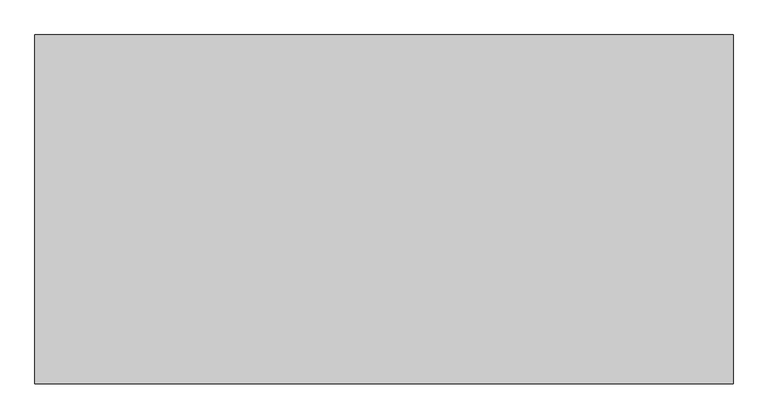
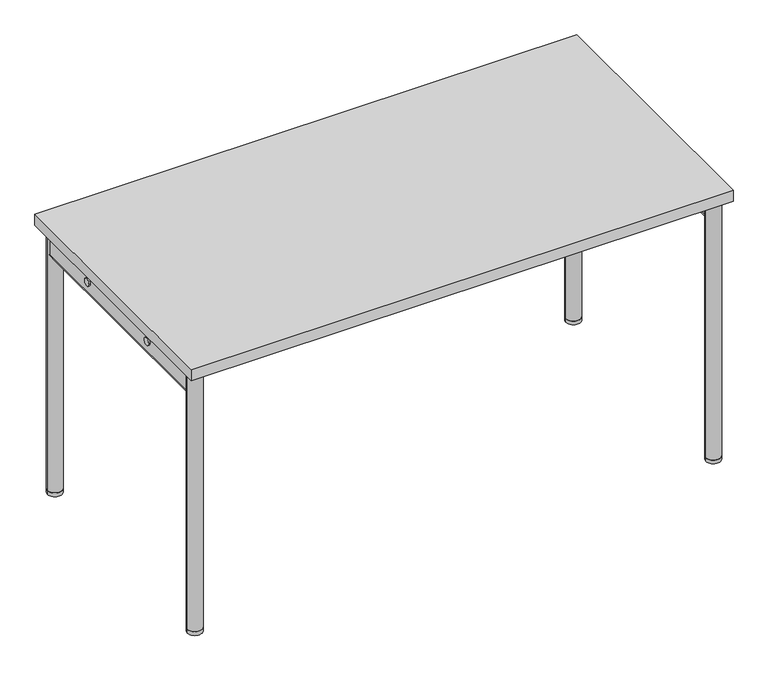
"""IFC4 building model written with IfcOpenShell, lengths in millimetres: furniture geometry, Audo Copenhagen - Co Collection - Table - 1400x700 : Crème tabletop with chrome legs."""

from ifc_helpers import new_model, si_unit, point, frame, frame_2d, origin, origin_with_axes, place, context, project, spatial, polyline, circle_curve, trimmed, segment, composite_curve, outline, extrude, source, transform, mapped, element, save


def furniture_1f168606(model_context):
    return source(origin(), model_context, "Body", "SweptSolid", [
        extrude(outline(composite_curve([segment(trimmed(circle_curve(frame_2d((-133.4891786, 688.598848)), 10.0), [point((-143.4891786, 688.598848))], [point((-123.4891786, 688.598848))], False, "CARTESIAN"), True, "CONTINUOUS"), segment(trimmed(circle_curve(frame_2d((-133.4891786, 688.598848)), 10.0), [point((-123.4891786, 688.598848))], [point((-143.4891786, 688.598848))], False, "CARTESIAN"), True, "CONTINUOUS")], self_intersect=False)), frame((686.1970363, 0.0, 0.0), z_axis=(1.0, 0.0, 0.0), x_axis=(0.0, 1.0, 0.0)), (0.0, 0.0, 1.0), 4.7228),
        extrude(outline(composite_curve([segment(trimmed(circle_curve(frame_2d((133.4891786, 688.598848)), 10.0), [point((143.4891786, 688.598848))], [point((123.4891786, 688.598848))], False, "CARTESIAN"), True, "CONTINUOUS"), segment(trimmed(circle_curve(frame_2d((133.4891786, 688.598848)), 10.0), [point((123.4891786, 688.598848))], [point((143.4891786, 688.598848))], False, "CARTESIAN"), True, "CONTINUOUS")], self_intersect=False)), frame((686.1970363, 0.0, 0.0), z_axis=(1.0, 0.0, 0.0), x_axis=(0.0, 1.0, 0.0)), (0.0, 0.0, 1.0), 4.7228),
        extrude(outline(composite_curve([segment(trimmed(circle_curve(frame_2d((-133.4891786, 688.598848)), 10.0), [point((-143.4891786, 688.598848))], [point((-123.4891786, 688.598848))], False, "CARTESIAN"), True, "CONTINUOUS"), segment(trimmed(circle_curve(frame_2d((-133.4891786, 688.598848)), 10.0), [point((-123.4891786, 688.598848))], [point((-143.4891786, 688.598848))], False, "CARTESIAN"), True, "CONTINUOUS")], self_intersect=False)), frame((-690.9198363, 0.0, 0.0), z_axis=(1.0, 0.0, 0.0), x_axis=(0.0, 1.0, 0.0)), (0.0, 0.0, 1.0), 4.7228),
        extrude(outline(composite_curve([segment(trimmed(circle_curve(frame_2d((133.4891786, 688.598848)), 10.0), [point((143.4891786, 688.598848))], [point((123.4891786, 688.598848))], False, "CARTESIAN"), True, "CONTINUOUS"), segment(trimmed(circle_curve(frame_2d((133.4891786, 688.598848)), 10.0), [point((123.4891786, 688.598848))], [point((143.4891786, 688.598848))], False, "CARTESIAN"), True, "CONTINUOUS")], self_intersect=False)), frame((-690.9198363, 0.0, 0.0), z_axis=(1.0, 0.0, 0.0), x_axis=(0.0, 1.0, 0.0)), (0.0, 0.0, 1.0), 4.7228),
        extrude(outline(polyline([(700.0, 350.0), (700.0, -350.0), (-700.0, -350.0), (-700.0, 350.0), (700.0, 350.0)])), frame((0.0, 0.0, 716.0), z_axis=(0.0, 0.0, 1.0), x_axis=(1.0, 0.0, 0.0)), (0.0, 0.0, 1.0), 30.0),
        extrude(outline(polyline([(655.0, -285.5), (655.0, -54.5), (660.0, -54.5), (660.0, -285.5), (655.0, -285.5)])), frame((0.0, 0.0, 666.0), z_axis=(0.0, 0.0, 1.0), x_axis=(1.0, 0.0, 0.0)), (0.0, 0.0, 1.0), 50.0),
        extrude(outline(polyline([(655.0, 54.5), (655.0, 285.5), (660.0, 285.5), (660.0, 54.5), (655.0, 54.5)])), frame((0.0, 0.0, 666.0), z_axis=(0.0, 0.0, 1.0), x_axis=(1.0, 0.0, 0.0)), (0.0, 0.0, 1.0), 50.0),
        extrude(outline(composite_curve([segment(trimmed(circle_curve(frame_2d((659.4923663, 673.5)), 13.5), [point((659.4923663, 660.0))], [point((659.4923663, 687.0))], False, "CARTESIAN"), True, "CONTINUOUS"), segment(polyline([(659.4923663, 687.0), (716.0, 687.0), (716.0, 660.0), (659.4923663, 660.0)]), True, "CONTINUOUS")], self_intersect=False)), frame((0.0, -313.4156347, 0.0), z_axis=(0.0, 1.0, 0.0), x_axis=(0.0, 0.0, 1.0)), (0.0, 0.0, 1.0), 622.2016593),
        extrude(outline(composite_curve([segment(trimmed(circle_curve(frame_2d((35.4917472, -12.5)), 12.5), [point((35.4917472, 0.0))], [point((35.4917472, -25.0))], False, "CARTESIAN"), True, "CONTINUOUS"), segment(polyline([(35.4917472, -25.0), (-2.0, -25.0), (-2.0, 0.0), (35.4917472, 0.0)]), True, "CONTINUOUS")], self_intersect=False)), frame((657.8449533, -237.5226228, 714.0), z_axis=(-0.7071067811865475, 0.7071067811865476, 0.0), x_axis=(0.0, 0.0, -1.0)), (0.0, 0.0, 1.0), 174.4944777),
        extrude(outline(composite_curve([segment(trimmed(circle_curve(frame_2d((0.0, -12.5)), 12.5), [point((0.0, -25.0))], [point((0.0, 0.0))], False, "CARTESIAN"), True, "CONTINUOUS"), segment(polyline([(0.0, 0.0), (37.4917472, 0.0), (37.4917472, -25.0), (0.0, -25.0)]), True, "CONTINUOUS")], self_intersect=False)), frame((552.1363943, 96.4587248, 678.5082528), z_axis=(0.7071067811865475, 0.7071067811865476, 0.0), x_axis=(0.0, 0.0, 1.0)), (0.0, 0.0, 1.0), 174.4944777),
        extrude(outline(composite_curve([segment(polyline([(0.0, -25.0), (-37.4917472, -25.0), (-37.4917472, 0.0), (0.0, 0.0)]), True, "CONTINUOUS"), segment(trimmed(circle_curve(frame_2d((0.0, -12.5)), 12.5), [point((0.0, 0.0))], [point((0.0, -25.0))], False, "CARTESIAN"), True, "CONTINUOUS")], self_intersect=False)), frame((-675.5226228, -219.8449533, 678.5082528), z_axis=(0.7071067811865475, 0.7071067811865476, 0.0), x_axis=(0.0, 0.0, -1.0)), (0.0, 0.0, 1.0), 174.4944777),
        extrude(outline(composite_curve([segment(polyline([(-35.4917472, 0.0), (2.0, 0.0), (2.0, -25.0), (-35.4917472, -25.0)]), True, "CONTINUOUS"), segment(trimmed(circle_curve(frame_2d((-35.4917472, -12.5)), 12.5), [point((-35.4917472, -25.0))], [point((-35.4917472, 0.0))], False, "CARTESIAN"), True, "CONTINUOUS")], self_intersect=False)), frame((-534.4587248, 114.1363943, 714.0), z_axis=(-0.7071067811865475, 0.7071067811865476, 0.0), x_axis=(0.0, 0.0, 1.0)), (0.0, 0.0, 1.0), 174.4944777),
        extrude(outline(polyline([(-655.0, -54.5), (-655.0, -285.5), (-660.0, -285.5), (-660.0, -54.5), (-655.0, -54.5)])), frame((0.0, 0.0, 666.0), z_axis=(0.0, 0.0, 1.0), x_axis=(1.0, 0.0, 0.0)), (0.0, 0.0, 1.0), 50.0),
        extrude(outline(composite_curve([segment(polyline([(-117.0, 678.5082528), (-117.0, 716.0), (-92.0, 716.0), (-92.0, 678.5082528)]), True, "CONTINUOUS"), segment(trimmed(circle_curve(frame_2d((-104.5, 678.5082528)), 12.5), [point((-92.0, 678.5082528))], [point((-117.0, 678.5082528))], False, "CARTESIAN"), True, "CONTINUOUS")], self_intersect=False)), frame((-655.0, 0.0, 0.0), z_axis=(1.0, 0.0, 0.0), x_axis=(0.0, 1.0, 0.0)), (0.0, 0.0, 1.0), 1310.0),
        extrude(outline(composite_curve([segment(trimmed(circle_curve(frame_2d((104.5, 678.5082528)), 12.5), [point((117.0, 678.5082528))], [point((92.0, 678.5082528))], False, "CARTESIAN"), True, "CONTINUOUS"), segment(polyline([(92.0, 678.5082528), (92.0, 716.0), (117.0, 716.0), (117.0, 678.5082528)]), True, "CONTINUOUS")], self_intersect=False)), frame((-655.0, 0.0, 0.0), z_axis=(1.0, 0.0, 0.0), x_axis=(0.0, 1.0, 0.0)), (0.0, 0.0, 1.0), 1310.0),
        extrude(outline(polyline([(-655.0, 285.5), (-655.0, 54.5), (-660.0, 54.5), (-660.0, 285.5), (-655.0, 285.5)])), frame((0.0, 0.0, 666.0), z_axis=(0.0, 0.0, 1.0), x_axis=(1.0, 0.0, 0.0)), (0.0, 0.0, 1.0), 50.0),
        extrude(outline(composite_curve([segment(polyline([(659.4923663, -660.0), (716.0, -660.0), (716.0, -687.0), (659.4923663, -687.0)]), True, "CONTINUOUS"), segment(trimmed(circle_curve(frame_2d((659.4923663, -673.5)), 13.5), [point((659.4923663, -687.0))], [point((659.4923663, -660.0))], False, "CARTESIAN"), True, "CONTINUOUS")], self_intersect=False)), frame((0.0, -307.2082387, 0.0), z_axis=(0.0, 1.0, 0.0), x_axis=(0.0, 0.0, 1.0)), (0.0, 0.0, 1.0), 617.6680533),
        extrude(outline(composite_curve([segment(trimmed(circle_curve(frame_2d((670.0, 313.0085351)), 19.0), [point((689.0, 313.0085351))], [point((651.0, 313.0085351))], False, "CARTESIAN"), True, "CONTINUOUS"), segment(trimmed(circle_curve(frame_2d((670.0, 313.0085351)), 19.0), [point((651.0, 313.0085351))], [point((689.0, 313.0085351))], False, "CARTESIAN"), True, "CONTINUOUS")], self_intersect=False)), origin_with_axes(), (0.0, 0.0, 1.0), 10.0),
        extrude(outline(composite_curve([segment(trimmed(circle_curve(frame_2d((670.0, 313.0085351)), 19.0), [point((689.0, 313.0085351))], [point((651.0, 313.0085351))], False, "CARTESIAN"), True, "CONTINUOUS"), segment(trimmed(circle_curve(frame_2d((670.0, 313.0085351)), 19.0), [point((651.0, 313.0085351))], [point((689.0, 313.0085351))], False, "CARTESIAN"), True, "CONTINUOUS")], self_intersect=False)), frame((0.0, 0.0, 10.0), z_axis=(0.0, 0.0, 1.0), x_axis=(1.0, 0.0, 0.0)), (0.0, 0.0, 1.0), 706.0),
        extrude(outline(composite_curve([segment(trimmed(circle_curve(frame_2d((670.0, -313.0085351)), 19.0), [point((689.0, -313.0085351))], [point((651.0, -313.0085351))], False, "CARTESIAN"), True, "CONTINUOUS"), segment(trimmed(circle_curve(frame_2d((670.0, -313.0085351)), 19.0), [point((651.0, -313.0085351))], [point((689.0, -313.0085351))], False, "CARTESIAN"), True, "CONTINUOUS")], self_intersect=False)), origin_with_axes(), (0.0, 0.0, 1.0), 10.0),
        extrude(outline(composite_curve([segment(trimmed(circle_curve(frame_2d((670.0, -313.0085351)), 19.0), [point((689.0, -313.0085351))], [point((651.0, -313.0085351))], False, "CARTESIAN"), True, "CONTINUOUS"), segment(trimmed(circle_curve(frame_2d((670.0, -313.0085351)), 19.0), [point((651.0, -313.0085351))], [point((689.0, -313.0085351))], False, "CARTESIAN"), True, "CONTINUOUS")], self_intersect=False)), frame((0.0, 0.0, 10.0), z_axis=(0.0, 0.0, 1.0), x_axis=(1.0, 0.0, 0.0)), (0.0, 0.0, 1.0), 706.0),
        extrude(outline(composite_curve([segment(trimmed(circle_curve(frame_2d((-670.0, 313.0085351)), 19.0), [point((-689.0, 313.0085351))], [point((-651.0, 313.0085351))], False, "CARTESIAN"), True, "CONTINUOUS"), segment(trimmed(circle_curve(frame_2d((-670.0, 313.0085351)), 19.0), [point((-651.0, 313.0085351))], [point((-689.0, 313.0085351))], False, "CARTESIAN"), True, "CONTINUOUS")], self_intersect=False)), origin_with_axes(), (0.0, 0.0, 1.0), 10.0),
        extrude(outline(composite_curve([segment(trimmed(circle_curve(frame_2d((-670.0, 313.0085351)), 19.0), [point((-689.0, 313.0085351))], [point((-651.0, 313.0085351))], False, "CARTESIAN"), True, "CONTINUOUS"), segment(trimmed(circle_curve(frame_2d((-670.0, 313.0085351)), 19.0), [point((-651.0, 313.0085351))], [point((-689.0, 313.0085351))], False, "CARTESIAN"), True, "CONTINUOUS")], self_intersect=False)), frame((0.0, 0.0, 10.0), z_axis=(0.0, 0.0, 1.0), x_axis=(1.0, 0.0, 0.0)), (0.0, 0.0, 1.0), 706.0),
        extrude(outline(composite_curve([segment(trimmed(circle_curve(frame_2d((-670.0, -313.0085351)), 19.0), [point((-689.0, -313.0085351))], [point((-651.0, -313.0085351))], False, "CARTESIAN"), True, "CONTINUOUS"), segment(trimmed(circle_curve(frame_2d((-670.0, -313.0085351)), 19.0), [point((-651.0, -313.0085351))], [point((-689.0, -313.0085351))], False, "CARTESIAN"), True, "CONTINUOUS")], self_intersect=False)), origin_with_axes(), (0.0, 0.0, 1.0), 10.0),
        extrude(outline(composite_curve([segment(trimmed(circle_curve(frame_2d((-670.0, -313.0085351)), 19.0), [point((-689.0, -313.0085351))], [point((-651.0, -313.0085351))], False, "CARTESIAN"), True, "CONTINUOUS"), segment(trimmed(circle_curve(frame_2d((-670.0, -313.0085351)), 19.0), [point((-651.0, -313.0085351))], [point((-689.0, -313.0085351))], False, "CARTESIAN"), True, "CONTINUOUS")], self_intersect=False)), frame((0.0, 0.0, 10.0), z_axis=(0.0, 0.0, 1.0), x_axis=(1.0, 0.0, 0.0)), (0.0, 0.0, 1.0), 706.0),
    ])


if __name__ == "__main__":
    model = new_model("IFC4")
    model_context = context("Model", 3, world=origin())
    ifc_project = project(units=[si_unit("LENGTHUNIT", "METRE", prefix="MILLI")], contexts=[model_context])
    site = spatial("IfcSite", under=ifc_project)
    building = spatial("IfcBuilding", under=site)
    placement = place(None, origin())
    furniture_shape = furniture_1f168606(model_context)
    element("IfcFurniture", 1, ObjectType="Audo Copenhagen - Co Collection - Table - 1400x700 : Crème tabletop with chrome legs", at=placement, inside=building, context=model_context, shape_type="MappedRepresentation", body=[
        mapped(furniture_shape, transform((0.0, 0.0, 0.0), x_axis=(1.0, 0.0, 0.0), y_axis=(0.0, 1.0, 0.0), z_axis=(0.0, 0.0, 1.0))),
    ])
    save(model, "model.ifc")
